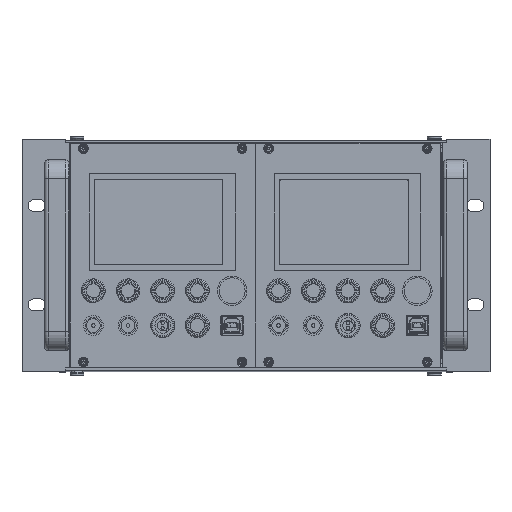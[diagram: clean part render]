
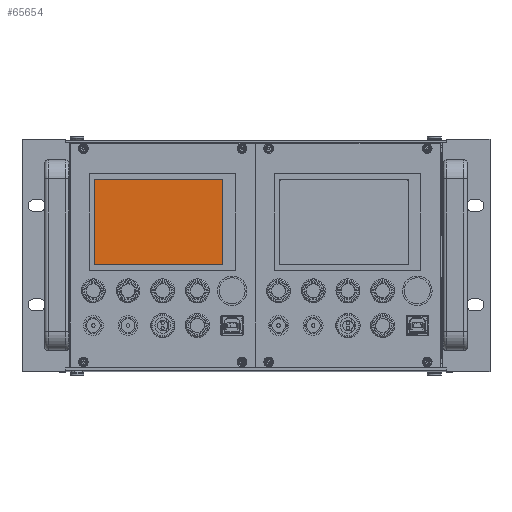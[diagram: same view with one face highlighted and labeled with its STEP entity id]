
A CAD part, top view. The second image highlights one B-rep face of the part: STEP entity #65654.
In plain terms, the highlighted planar face has unit normal (0, 0, 1).
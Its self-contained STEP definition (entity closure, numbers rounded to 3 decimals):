
#9143 = CARTESIAN_POINT ( 'NONE',  ( -961.611, -154.497, 813.757 ) ) ;
#13431 = VERTEX_POINT ( 'NONE', #42545 ) ;
#15902 = EDGE_CURVE ( 'NONE', #30718, #13431, #54713, .T. ) ;
#16309 = VECTOR ( 'NONE', #44846, 1000. ) ;
#25007 = EDGE_CURVE ( 'NONE', #57303, #36107, #63740, .T. ) ;
#26361 = CARTESIAN_POINT ( 'NONE',  ( -961.611, -203.897, 813.757 ) ) ;
#26504 = EDGE_CURVE ( 'NONE', #36107, #30718, #44180, .T. ) ;
#27036 = ORIENTED_EDGE ( 'NONE', *, *, #25007, .T. ) ;
#27598 = CARTESIAN_POINT ( 'NONE',  ( -961.611, -154.497, 813.757 ) ) ;
#28942 = CARTESIAN_POINT ( 'NONE',  ( -961.611, -154.497, 813.757 ) ) ;
#30718 = VERTEX_POINT ( 'NONE', #26361 ) ;
#33236 = VECTOR ( 'NONE', #48838, 1000. ) ;
#36107 = VERTEX_POINT ( 'NONE', #27598 ) ;
#37669 = VECTOR ( 'NONE', #82718, 1000. ) ;
#38778 = EDGE_CURVE ( 'NONE', #13431, #57303, #93872, .T. ) ;
#42545 = CARTESIAN_POINT ( 'NONE',  ( -887.711, -203.897, 813.757 ) ) ;
#43178 = VECTOR ( 'NONE', #43950, 1000. ) ;
#43950 = DIRECTION ( 'NONE',  ( -1., 0., 0. ) ) ;
#44180 = LINE ( 'NONE', #9143, #33236 ) ;
#44846 = DIRECTION ( 'NONE',  ( 0., 1., 0. ) ) ;
#45071 = FACE_OUTER_BOUND ( 'NONE', #51264, .T. ) ;
#48838 = DIRECTION ( 'NONE',  ( 0., -1., 0. ) ) ;
#51264 = EDGE_LOOP ( 'NONE', ( #61552, #88841, #95632, #27036 ) ) ;
#51650 = CARTESIAN_POINT ( 'NONE',  ( -961.611, -203.897, 813.757 ) ) ;
#53015 = DIRECTION ( 'NONE',  ( 1., 0., 0. ) ) ;
#54713 = LINE ( 'NONE', #51650, #37669 ) ;
#57303 = VERTEX_POINT ( 'NONE', #67113 ) ;
#60407 = CARTESIAN_POINT ( 'NONE',  ( -922.361, -179.447, 813.757 ) ) ;
#61552 = ORIENTED_EDGE ( 'NONE', *, *, #26504, .T. ) ;
#63740 = LINE ( 'NONE', #28942, #43178 ) ;
#65654 = ADVANCED_FACE ( 'NONE', ( #45071 ), #69563, .T. ) ;
#67113 = CARTESIAN_POINT ( 'NONE',  ( -887.711, -154.497, 813.757 ) ) ;
#68882 = DIRECTION ( 'NONE',  ( 0., 0., 1. ) ) ;
#69563 = PLANE ( 'NONE',  #73084 ) ;
#73084 = AXIS2_PLACEMENT_3D ( 'NONE', #60407, #68882, #53015 ) ;
#75874 = CARTESIAN_POINT ( 'NONE',  ( -887.711, -154.497, 813.757 ) ) ;
#82718 = DIRECTION ( 'NONE',  ( 1., 0., 0. ) ) ;
#88841 = ORIENTED_EDGE ( 'NONE', *, *, #15902, .T. ) ;
#93872 = LINE ( 'NONE', #75874, #16309 ) ;
#95632 = ORIENTED_EDGE ( 'NONE', *, *, #38778, .T. ) ;
